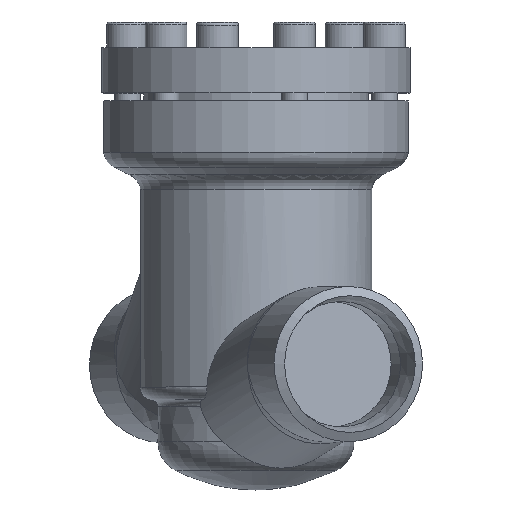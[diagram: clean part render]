
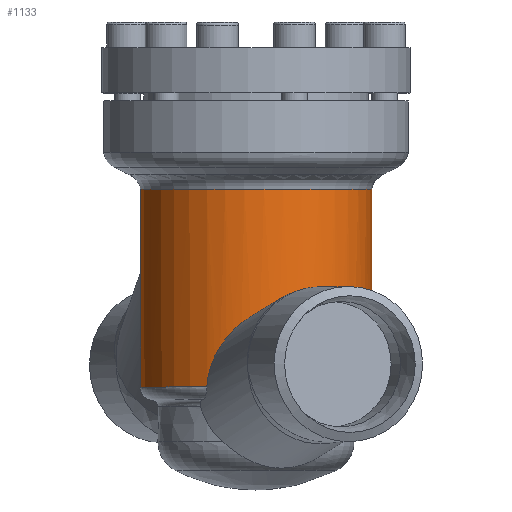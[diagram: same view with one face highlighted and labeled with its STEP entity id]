
A CAD part, top view. The second image highlights one B-rep face of the part: STEP entity #1133.
In plain terms, the highlighted cylindrical face has radius 36 mm (diameter 72 mm), a full revolution.
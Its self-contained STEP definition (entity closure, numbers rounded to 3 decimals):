
#103=B_SPLINE_CURVE_WITH_KNOTS('',3,(#1936,#1937,#1938,#1939,#1940,#1941,
#1942,#1943,#1944,#1945,#1946,#1947,#1948,#1949,#1950,#1951,#1952,#1953,
#1954,#1955,#1956,#1957,#1958,#1959,#1960,#1961,#1962,#1963,#1964,#1965,
#1966,#1967,#1968,#1969),.UNSPECIFIED.,.F.,.F.,(4,2,2,2,2,2,2,2,2,2,2,2,
2,2,2,2,4),(0.063,0.509,1.019,1.528,
2.037,2.51,2.982,3.455,3.927,
4.4,4.872,5.345,5.817,6.326,
6.836,7.345,7.791),.UNSPECIFIED.);
#107=B_SPLINE_CURVE_WITH_KNOTS('',3,(#2066,#2067,#2068,#2069,#2070,#2071,
#2072,#2073,#2074,#2075,#2076,#2077,#2078,#2079,#2080,#2081,#2082,#2083,
#2084,#2085,#2086,#2087,#2088,#2089,#2090,#2091,#2092,#2093,#2094,#2095,
#2096,#2097,#2098,#2099,#2100,#2101,#2102,#2103,#2104,#2105,#2106,#2107,
#2108,#2109,#2110,#2111,#2112),.UNSPECIFIED.,.F.,.F.,(4,2,2,2,2,2,2,2,2,
2,2,2,2,2,2,2,2,3,2,2,2,2,4),(-11.895,-11.876,-11.374,
-10.871,-10.368,-9.866,-9.115,
-8.364,-6.862,-5.897,-5.415,
-4.933,-4.451,-3.969,-3.004,-1.502,
-0.751,0.,0.503,1.005,1.508,
2.01,2.029),.UNSPECIFIED.);
#139=CYLINDRICAL_SURFACE('',#1274,36.);
#215=FACE_BOUND('',#438,.T.);
#304=FACE_OUTER_BOUND('',#437,.T.);
#437=EDGE_LOOP('',(#933,#934));
#438=EDGE_LOOP('',(#935,#936));
#562=CIRCLE('',#1275,36.);
#563=CIRCLE('',#1276,36.);
#634=VERTEX_POINT('',#1922);
#635=VERTEX_POINT('',#1935);
#640=VERTEX_POINT('',#2064);
#641=VERTEX_POINT('',#2065);
#739=EDGE_CURVE('',#635,#634,#103,.T.);
#746=EDGE_CURVE('',#640,#641,#107,.T.);
#766=EDGE_CURVE('',#634,#635,#562,.T.);
#767=EDGE_CURVE('',#640,#641,#563,.T.);
#933=ORIENTED_EDGE('',*,*,#739,.T.);
#934=ORIENTED_EDGE('',*,*,#766,.T.);
#935=ORIENTED_EDGE('',*,*,#746,.T.);
#936=ORIENTED_EDGE('',*,*,#767,.F.);
#1133=ADVANCED_FACE('',(#304,#215),#139,.T.);
#1274=AXIS2_PLACEMENT_3D('',#2299,#1556,#1557);
#1275=AXIS2_PLACEMENT_3D('',#2300,#1558,#1559);
#1276=AXIS2_PLACEMENT_3D('',#2301,#1560,#1561);
#1556=DIRECTION('center_axis',(0.,1.,0.));
#1557=DIRECTION('ref_axis',(-1.,0.,0.));
#1558=DIRECTION('center_axis',(0.,1.,0.));
#1559=DIRECTION('ref_axis',(-1.,0.,0.));
#1560=DIRECTION('center_axis',(0.,1.,0.));
#1561=DIRECTION('ref_axis',(-1.,0.,0.));
#1922=CARTESIAN_POINT('',(-26.705,34.,24.142));
#1935=CARTESIAN_POINT('',(-26.705,34.,-24.142));
#1936=CARTESIAN_POINT('Ctrl Pts',(-26.705,34.,-24.142));
#1937=CARTESIAN_POINT('Ctrl Pts',(-26.739,35.491,-24.104));
#1938=CARTESIAN_POINT('Ctrl Pts',(-26.896,36.994,-23.933));
#1939=CARTESIAN_POINT('Ctrl Pts',(-27.449,40.17,-23.297));
#1940=CARTESIAN_POINT('Ctrl Pts',(-27.876,41.836,-22.795));
#1941=CARTESIAN_POINT('Ctrl Pts',(-28.882,45.026,-21.506));
#1942=CARTESIAN_POINT('Ctrl Pts',(-29.46,46.551,-20.719));
#1943=CARTESIAN_POINT('Ctrl Pts',(-30.648,49.389,-18.917));
#1944=CARTESIAN_POINT('Ctrl Pts',(-31.258,50.7,-17.902));
#1945=CARTESIAN_POINT('Ctrl Pts',(-32.364,52.958,-15.807));
#1946=CARTESIAN_POINT('Ctrl Pts',(-32.906,54.005,-14.663));
#1947=CARTESIAN_POINT('Ctrl Pts',(-33.917,55.89,-12.144));
#1948=CARTESIAN_POINT('Ctrl Pts',(-34.385,56.728,-10.769));
#1949=CARTESIAN_POINT('Ctrl Pts',(-35.164,58.101,-7.859));
#1950=CARTESIAN_POINT('Ctrl Pts',(-35.476,58.636,-6.32));
#1951=CARTESIAN_POINT('Ctrl Pts',(-35.894,59.35,-3.178));
#1952=CARTESIAN_POINT('Ctrl Pts',(-36.,59.527,-1.575));
#1953=CARTESIAN_POINT('Ctrl Pts',(-36.,59.527,1.575));
#1954=CARTESIAN_POINT('Ctrl Pts',(-35.894,59.35,3.178));
#1955=CARTESIAN_POINT('Ctrl Pts',(-35.476,58.636,6.32));
#1956=CARTESIAN_POINT('Ctrl Pts',(-35.164,58.101,7.859));
#1957=CARTESIAN_POINT('Ctrl Pts',(-34.385,56.728,10.769));
#1958=CARTESIAN_POINT('Ctrl Pts',(-33.917,55.89,12.144));
#1959=CARTESIAN_POINT('Ctrl Pts',(-32.906,54.005,14.663));
#1960=CARTESIAN_POINT('Ctrl Pts',(-32.364,52.958,15.807));
#1961=CARTESIAN_POINT('Ctrl Pts',(-31.258,50.7,17.902));
#1962=CARTESIAN_POINT('Ctrl Pts',(-30.648,49.389,18.917));
#1963=CARTESIAN_POINT('Ctrl Pts',(-29.46,46.551,20.719));
#1964=CARTESIAN_POINT('Ctrl Pts',(-28.882,45.026,21.506));
#1965=CARTESIAN_POINT('Ctrl Pts',(-27.876,41.836,22.795));
#1966=CARTESIAN_POINT('Ctrl Pts',(-27.449,40.17,23.297));
#1967=CARTESIAN_POINT('Ctrl Pts',(-26.896,36.994,23.933));
#1968=CARTESIAN_POINT('Ctrl Pts',(-26.739,35.491,24.104));
#1969=CARTESIAN_POINT('Ctrl Pts',(-26.705,34.,24.142));
#2064=CARTESIAN_POINT('',(31.733,95.5,-17.001));
#2065=CARTESIAN_POINT('',(31.733,95.5,17.001));
#2066=CARTESIAN_POINT('Ctrl Pts',(31.733,95.5,-17.001));
#2067=CARTESIAN_POINT('Ctrl Pts',(31.709,95.462,-17.046));
#2068=CARTESIAN_POINT('Ctrl Pts',(31.685,95.424,-17.09));
#2069=CARTESIAN_POINT('Ctrl Pts',(31.025,94.376,-18.309));
#2070=CARTESIAN_POINT('Ctrl Pts',(30.355,93.196,-19.386));
#2071=CARTESIAN_POINT('Ctrl Pts',(29.103,90.532,-21.219));
#2072=CARTESIAN_POINT('Ctrl Pts',(28.524,89.047,-21.975));
#2073=CARTESIAN_POINT('Ctrl Pts',(27.593,85.876,-23.134));
#2074=CARTESIAN_POINT('Ctrl Pts',(27.24,84.185,-23.539));
#2075=CARTESIAN_POINT('Ctrl Pts',(26.793,80.751,-24.047));
#2076=CARTESIAN_POINT('Ctrl Pts',(26.698,79.01,-24.15));
#2077=CARTESIAN_POINT('Ctrl Pts',(26.698,74.831,-24.15));
#2078=CARTESIAN_POINT('Ctrl Pts',(26.906,72.266,-23.924));
#2079=CARTESIAN_POINT('Ctrl Pts',(27.608,67.13,-23.111));
#2080=CARTESIAN_POINT('Ctrl Pts',(28.1,64.559,-22.522));
#2081=CARTESIAN_POINT('Ctrl Pts',(29.806,57.017,-20.277));
#2082=CARTESIAN_POINT('Ctrl Pts',(31.237,52.22,-18.144));
#2083=CARTESIAN_POINT('Ctrl Pts',(33.346,45.63,-13.702));
#2084=CARTESIAN_POINT('Ctrl Pts',(34.227,43.04,-11.482));
#2085=CARTESIAN_POINT('Ctrl Pts',(35.225,40.178,-7.551));
#2086=CARTESIAN_POINT('Ctrl Pts',(35.504,39.392,-6.141));
#2087=CARTESIAN_POINT('Ctrl Pts',(35.892,38.305,-3.169));
#2088=CARTESIAN_POINT('Ctrl Pts',(36.,38.004,-1.607));
#2089=CARTESIAN_POINT('Ctrl Pts',(36.,38.004,1.607));
#2090=CARTESIAN_POINT('Ctrl Pts',(35.892,38.305,3.169));
#2091=CARTESIAN_POINT('Ctrl Pts',(35.504,39.392,6.141));
#2092=CARTESIAN_POINT('Ctrl Pts',(35.225,40.178,7.551));
#2093=CARTESIAN_POINT('Ctrl Pts',(34.227,43.04,11.482));
#2094=CARTESIAN_POINT('Ctrl Pts',(33.346,45.63,13.702));
#2095=CARTESIAN_POINT('Ctrl Pts',(31.237,52.22,18.144));
#2096=CARTESIAN_POINT('Ctrl Pts',(29.806,57.017,20.277));
#2097=CARTESIAN_POINT('Ctrl Pts',(28.1,64.559,22.522));
#2098=CARTESIAN_POINT('Ctrl Pts',(27.608,67.13,23.111));
#2099=CARTESIAN_POINT('Ctrl Pts',(26.906,72.266,23.924));
#2100=CARTESIAN_POINT('Ctrl Pts',(26.698,74.831,24.15));
#2101=CARTESIAN_POINT('Ctrl Pts',(26.698,77.335,24.15));
#2102=CARTESIAN_POINT('Ctrl Pts',(26.698,79.01,24.15));
#2103=CARTESIAN_POINT('Ctrl Pts',(26.793,80.751,24.047));
#2104=CARTESIAN_POINT('Ctrl Pts',(27.24,84.185,23.539));
#2105=CARTESIAN_POINT('Ctrl Pts',(27.593,85.876,23.134));
#2106=CARTESIAN_POINT('Ctrl Pts',(28.524,89.047,21.975));
#2107=CARTESIAN_POINT('Ctrl Pts',(29.103,90.532,21.219));
#2108=CARTESIAN_POINT('Ctrl Pts',(30.355,93.196,19.386));
#2109=CARTESIAN_POINT('Ctrl Pts',(31.025,94.376,18.309));
#2110=CARTESIAN_POINT('Ctrl Pts',(31.685,95.424,17.09));
#2111=CARTESIAN_POINT('Ctrl Pts',(31.709,95.462,17.046));
#2112=CARTESIAN_POINT('Ctrl Pts',(31.733,95.5,17.001));
#2299=CARTESIAN_POINT('Origin',(0.,64.75,0.));
#2300=CARTESIAN_POINT('Origin',(0.,34.,0.));
#2301=CARTESIAN_POINT('Origin',(0.,95.5,0.));
